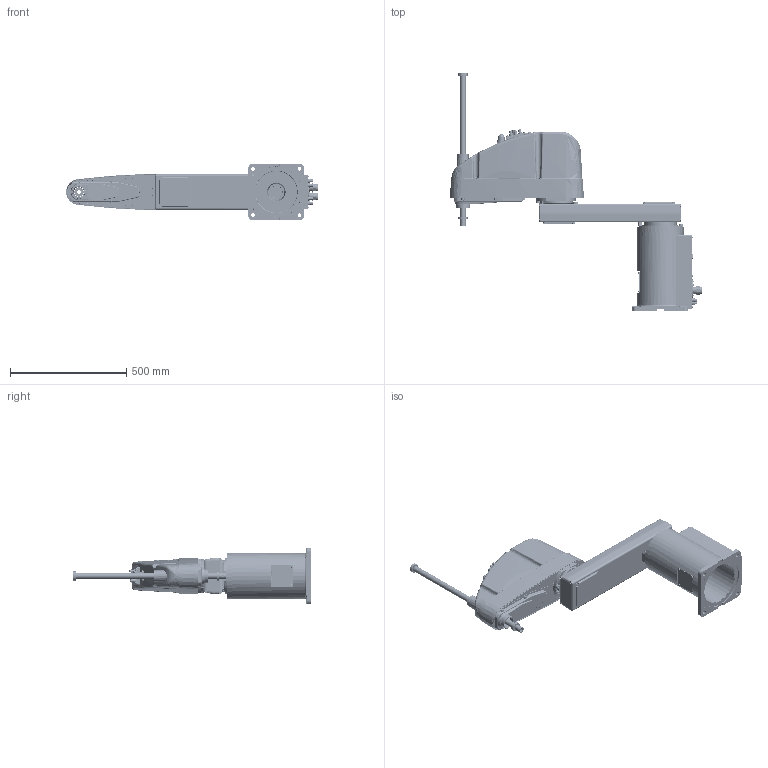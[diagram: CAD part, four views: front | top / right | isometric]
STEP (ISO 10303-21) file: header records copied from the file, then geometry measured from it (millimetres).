
FILE_DESCRIPTION((''),'2;1');
FILE_NAME('C_G10-854S_ASM','2008-02-27T',('0179539'),(''),'PRO/ENGINEER BY PARAMETRIC TECHNOLOGY CORPORATION, 2004090','PRO/ENGINEER BY PARAMETRIC TECHNOLOGY CORPORATION, 2004090','');
FILE_SCHEMA(('CONFIG_CONTROL_DESIGN'));
Length unit declared in the file: millimetre
Products named in the file (5): BASE1_L; ARM1_L85; BODY_L; ZL_4; C_G10-854S_ASM
Assembly tree (4 placements, depth 2):
  C_G10-854S_ASM
    BASE1_L
    ARM1_L85
    BODY_L
    ZL_4
Bounding box: 1084.34 x 1023.5 x 240 mm (x, y, z)
Volume: 10223884 mm3; surface area: 3014271.7 mm2
Topology: 6 solids, 6 shells, 4787 faces, 12012 edges, 7643 vertices
Faces by surface type: plane 2244, cylinder 1524, cone 478, bspline 302, torus 188, extrusion 49, sphere 2
Entity records: 171128 total; most frequent: CARTESIAN_POINT 56149, ORIENTED_EDGE 23872, DIRECTION 23751, EDGE_CURVE 11936, AXIS2_PLACEMENT_3D 8524, VERTEX_POINT 7643, VECTOR 6703, LINE 6654
